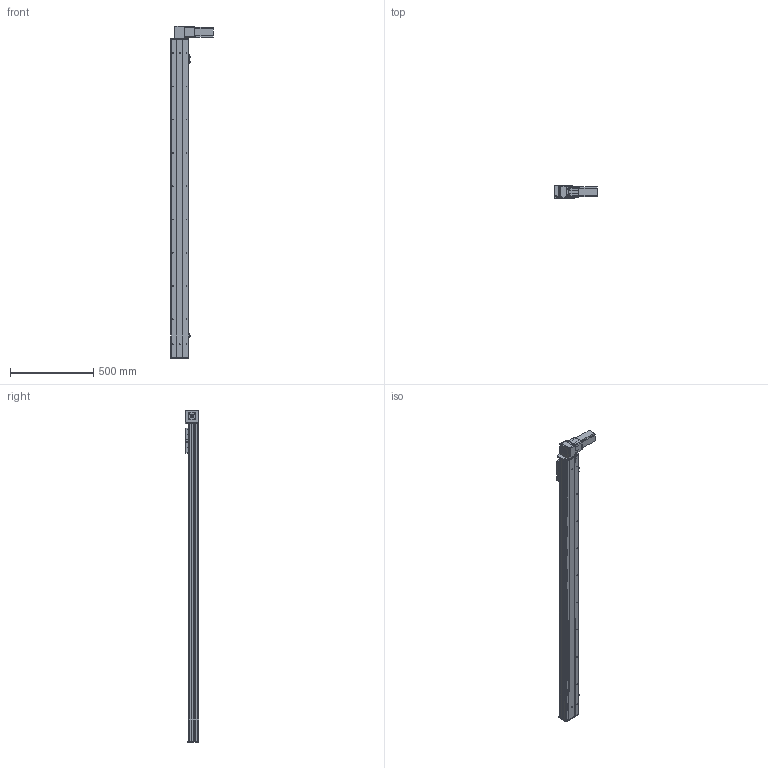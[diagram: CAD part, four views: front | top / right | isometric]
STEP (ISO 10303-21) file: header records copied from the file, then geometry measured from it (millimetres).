
FILE_DESCRIPTION (( 'STEP AP203' ), '1' );
FILE_NAME ('Y10CB-D90-S1650-BD-P400W.STEP', '2020-02-17T02:46:25', ( '微软用户' ), ( '微软中国' ), 'SwSTEP 2.0', 'SolidWorks 2017', '' );
FILE_SCHEMA (( 'CONFIG_CONTROL_DESIGN' ));
Length unit declared in the file: millimetre
Products named in the file (16): 10CB-詩湍-; Y10CB-D90-S1650-BD-P400W; Y10CB- 掛极耜裔啣-毀---; Y10C---詩湍揤啣; 0CB-雄赽釱---; 10CB9-掛极; 0Cb-俋欶---; 10CB-耜裔; Y10B-々湍喘謫眊楊擘啣--; 0B-薊粣ん眊; Y135C-陔俋离換覜結え-; san松下电机400不带刹车----; Y100-135俋离換覜ん--; 0B-源倛裔啣; Y10B--々湍喘謫眊--666; 0B-埴倛裔啣
Assembly tree (19 placements, depth 2):
  Y10CB-D90-S1650-BD-P400W
    0CB-雄赽釱---
    0Cb-俋欶---
    Y10B-々湍喘謫眊楊擘啣--
    san松下电机400不带刹车----
    0B-源倛裔啣
    0B-埴倛裔啣
    10CB-詩湍-
    Y10CB- 掛极耜裔啣-毀---  x2
    Y10C---詩湍揤啣  x2
    10CB9-掛极
    10CB-耜裔
    Y135C-陔俋离換覜結え-
    Y100-135俋离換覜ん--  x3
    Y10B--々湍喘謫眊--666
    0B-薊粣ん眊
Bounding box: 258 x 80.5 x 1996 mm (x, y, z)
Volume: 4270543.3 mm3; surface area: 1940029.8 mm2
Topology: 19 solids, 19 shells, 936 faces, 2502 edges, 1628 vertices
Faces by surface type: cylinder 470, plane 442, cone 24
Entity records: 29069 total; most frequent: CARTESIAN_POINT 5348, DIRECTION 4661, ORIENTED_EDGE 4474, EDGE_CURVE 2237, AXIS2_PLACEMENT_3D 1671, VERTEX_POINT 1454, LINE 1319, VECTOR 1319
